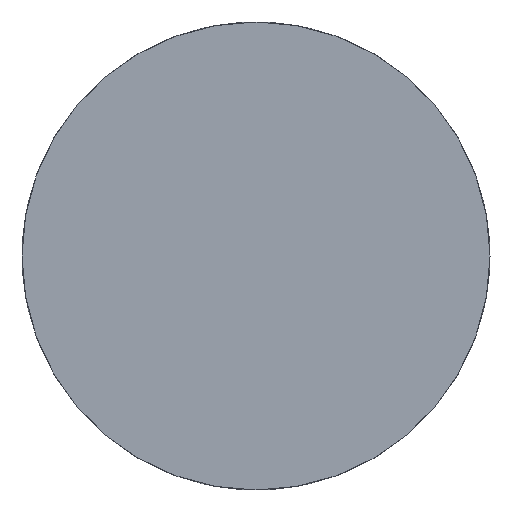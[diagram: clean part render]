
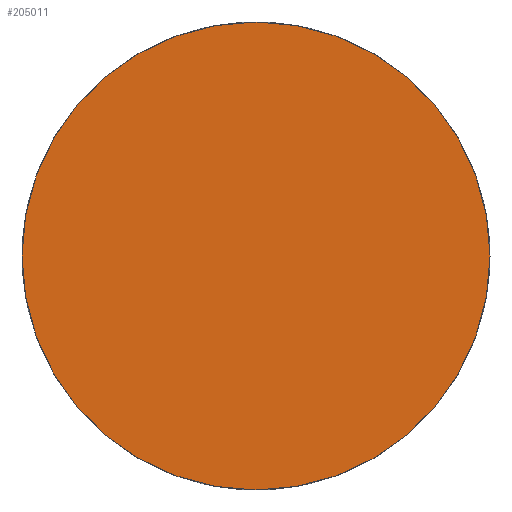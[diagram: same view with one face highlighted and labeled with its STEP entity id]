
A CAD part, top view. The second image highlights one B-rep face of the part: STEP entity #205011.
In plain terms, the highlighted planar face has unit normal (0, 0, 1).
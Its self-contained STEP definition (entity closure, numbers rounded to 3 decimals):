
#176906=CARTESIAN_POINT('',(46.,0.,50.));
#176907=VERTEX_POINT('',#176906);
#176921=CARTESIAN_POINT('',(0.,0.001,50.));
#176926=DIRECTION('',(0.,-0.,1.));
#176931=DIRECTION('',(-1.,0.,0.));
#176936=AXIS2_PLACEMENT_3D('',#176921,#176926,#176931);
#176941=CIRCLE('',#176936,46.);
#176946=CARTESIAN_POINT('',(-46.,-0.003,50.));
#176947=VERTEX_POINT('',#176946);
#176951=EDGE_CURVE('',#176947,#176907,#176941,.T.);
#179666=CARTESIAN_POINT('',(0.,-0.001,50.));
#179671=DIRECTION('',(0.,0.,1.));
#179676=DIRECTION('',(1.,0.,0.));
#179681=AXIS2_PLACEMENT_3D('',#179666,#179671,#179676);
#179686=CIRCLE('',#179681,46.);
#179691=EDGE_CURVE('',#176907,#176947,#179686,.T.);
#204966=DIRECTION('',(0.,0.,1.));
#204971=CARTESIAN_POINT('',(-46.,-47.363,50.));
#204976=DIRECTION('',(1.,0.,0.));
#204981=AXIS2_PLACEMENT_3D('',#204971,#204966,#204976);
#204986=PLANE('',#204981);
#204991=ORIENTED_EDGE('',*,*,#176951,.T.);
#204996=ORIENTED_EDGE('',*,*,#179691,.T.);
#205001=EDGE_LOOP('',(#204991,#204996));
#205006=FACE_OUTER_BOUND('',#205001,.T.);
#205011=ADVANCED_FACE('NONE',(#205006),#204986,.T.);
